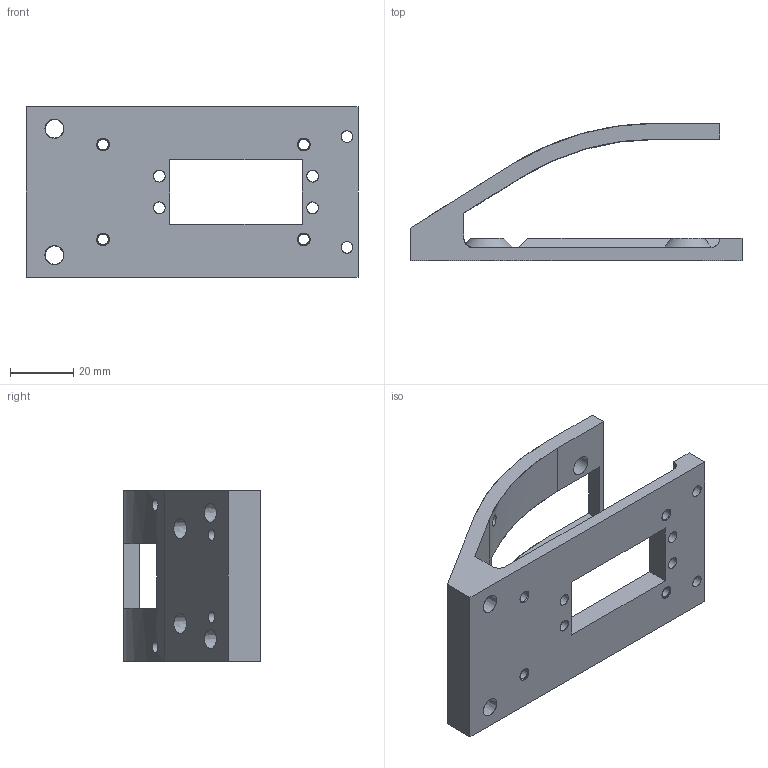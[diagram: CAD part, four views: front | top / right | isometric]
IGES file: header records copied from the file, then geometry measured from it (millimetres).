
Global section: file name: C:\Users\gehrichcr\Documents\1 Drive Backup\Practice\Inspire\V1.5\IGES\Frame Top V1.5.igs; native system: NX V8.5; preprocessor: SIEMENS PLM Software NX 8.5; date: 20150608.123554; units: millimetre
Bounding box: 105 x 43.28 x 54 mm (x, y, z)
Surface area: 23914.6 mm2 (no closed solid volume)
Topology: 0 solids, 0 shells, 71 faces, 825 edges, 796 vertices
Faces by surface type: bspline 71
